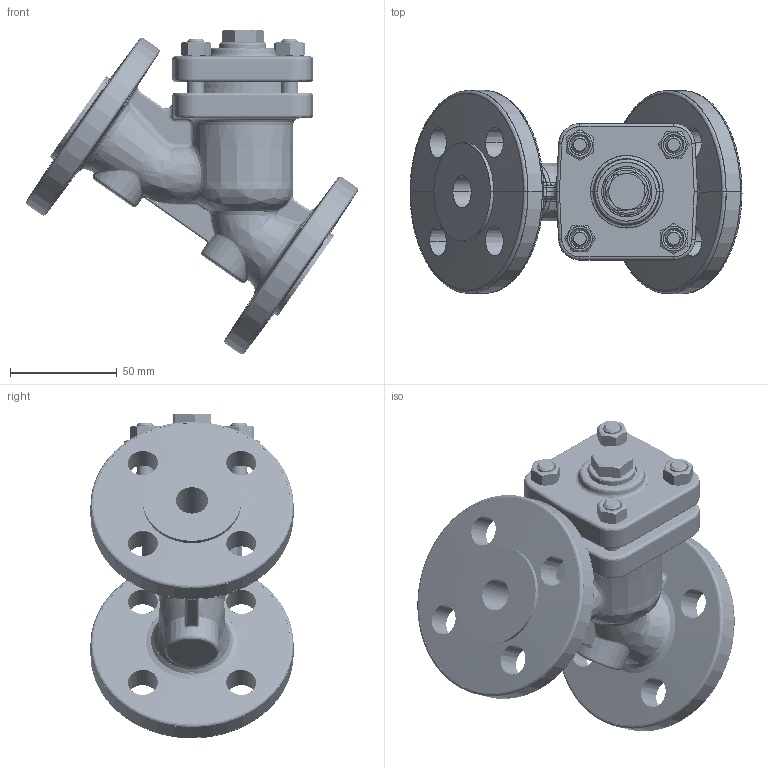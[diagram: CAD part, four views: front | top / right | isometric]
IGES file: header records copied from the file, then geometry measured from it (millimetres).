
Start section: SolidWorks IGES file using analytic representation for surfaces
Global section: file name: D:\katalog z³o¿eñ\00_Gotowe\821\RYSUNKI DXF\Z£O¯ENIA\Part\821_DN15_PN16.IGS; native system: SolidWorks 2010; preprocessor: SolidWorks 2010; author: alisowsk; date: 100108.122021; units: millimetre
Bounding box: 155.2 x 95 x 151.86 mm (x, y, z)
Surface area: 101198.4 mm2 (no closed solid volume)
Topology: 0 solids, 0 shells, 949 faces, 10832 edges, 10825 vertices
Faces by surface type: bspline 617, revolution 332
